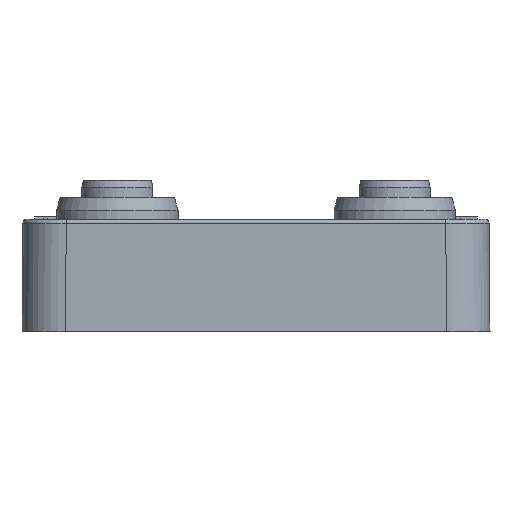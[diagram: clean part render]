
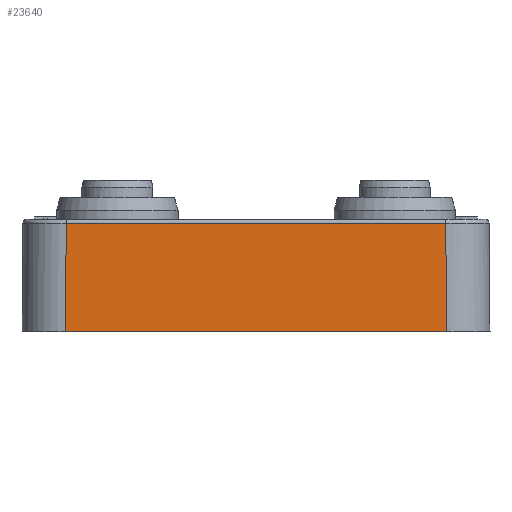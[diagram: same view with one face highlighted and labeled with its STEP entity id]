
A CAD part, front view. The second image highlights one B-rep face of the part: STEP entity #23640.
In plain terms, the highlighted planar face has unit normal (0, -1, 0.009).
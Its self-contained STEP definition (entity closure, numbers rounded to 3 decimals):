
#21978=CARTESIAN_POINT('',(22.,-53.,-13.));
#21979=VERTEX_POINT('',#21978);
#21987=CARTESIAN_POINT('',(-22.,-53.,-13.));
#21988=VERTEX_POINT('',#21987);
#21989=CARTESIAN_POINT('',(22.,-53.0,-13.0));
#21990=DIRECTION('',(-1.0,0.0,0.0));
#21991=VECTOR('',#21990,44.);
#21992=LINE('',#21989,#21991);
#21993=EDGE_CURVE('',#21979,#21988,#21992,.T.);
#23553=CARTESIAN_POINT('',(21.891,-52.891,-0.496));
#23554=VERTEX_POINT('',#23553);
#23573=CARTESIAN_POINT('',(-21.891,-52.891,-0.496));
#23574=VERTEX_POINT('',#23573);
#23585=CARTESIAN_POINT('',(-21.891,-52.891,-0.496));
#23586=DIRECTION('',(1.0,0.0,0.0));
#23587=VECTOR('',#23586,43.782);
#23588=LINE('',#23585,#23587);
#23589=EDGE_CURVE('',#23554,#23574,#23588,.F.);
#23615=CARTESIAN_POINT('',(21.891,-52.891,-0.496));
#23616=DIRECTION('',(0.009,-0.009,-1.));
#23617=VECTOR('',#23616,12.505);
#23618=LINE('',#23615,#23617);
#23619=EDGE_CURVE('',#21979,#23554,#23618,.F.);
#23624=CARTESIAN_POINT('',(-22.264,-52.743,16.404));
#23625=DIRECTION('',(0.0,1.,-0.009));
#23626=DIRECTION('',(0.0,0.009,1.));
#23627=AXIS2_PLACEMENT_3D('',#23624,#23625,#23626);
#23628=PLANE('',#23627);
#23629=ORIENTED_EDGE('',*,*,#23619,.T.);
#23630=ORIENTED_EDGE('',*,*,#23589,.T.);
#23631=CARTESIAN_POINT('',(-22.,-53.,-13.));
#23632=DIRECTION('',(0.009,0.009,1.));
#23633=VECTOR('',#23632,12.505);
#23634=LINE('',#23631,#23633);
#23635=EDGE_CURVE('',#23574,#21988,#23634,.F.);
#23636=ORIENTED_EDGE('',*,*,#23635,.T.);
#23637=ORIENTED_EDGE('',*,*,#21993,.F.);
#23638=EDGE_LOOP('',(#23629,#23630,#23636,#23637));
#23639=FACE_OUTER_BOUND('',#23638,.T.);
#23640=ADVANCED_FACE('',(#23639),#23628,.F.);
